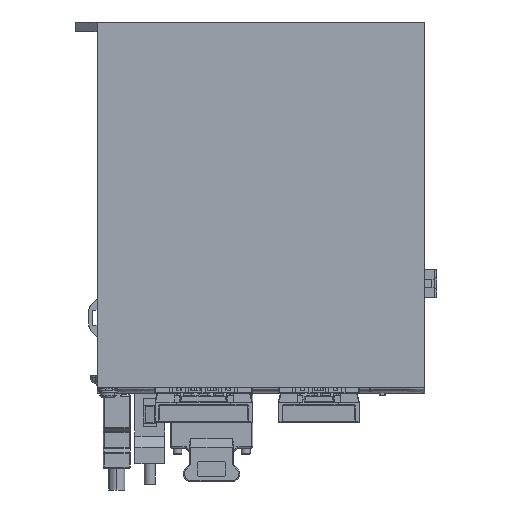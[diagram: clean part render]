
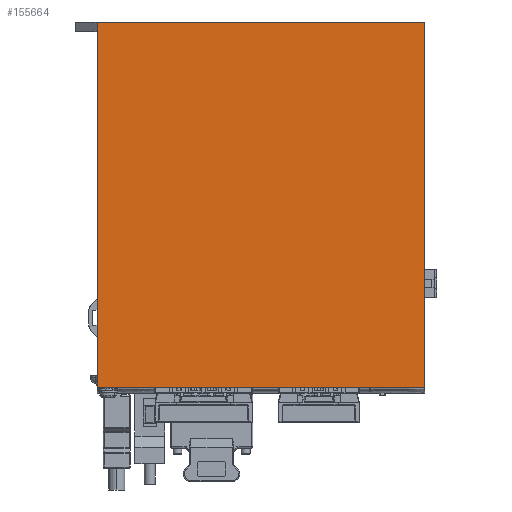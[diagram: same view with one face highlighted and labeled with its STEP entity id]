
A CAD part, front view. The second image highlights one B-rep face of the part: STEP entity #155664.
In plain terms, the highlighted planar face has unit normal (0, -1, 0).
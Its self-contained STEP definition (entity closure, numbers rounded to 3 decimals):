
#6488 = VECTOR ( 'NONE', #119408, 1000. ) ;
#11900 = VECTOR ( 'NONE', #50876, 1000. ) ;
#18419 = VECTOR ( 'NONE', #89807, 1000. ) ;
#21178 = VERTEX_POINT ( 'NONE', #98646 ) ;
#24363 = LINE ( 'NONE', #142629, #18419 ) ;
#28119 = LINE ( 'NONE', #127462, #11900 ) ;
#30814 = AXIS2_PLACEMENT_3D ( 'NONE', #32303, #34509, #137444 ) ;
#32303 = CARTESIAN_POINT ( 'NONE',  ( -150., 0., -79.5 ) ) ;
#34509 = DIRECTION ( 'NONE',  ( 0., -1., 0. ) ) ;
#35979 = ORIENTED_EDGE ( 'NONE', *, *, #90581, .T. ) ;
#38051 = LINE ( 'NONE', #56916, #136673 ) ;
#40650 = VERTEX_POINT ( 'NONE', #67287 ) ;
#42150 = CARTESIAN_POINT ( 'NONE',  ( 0., 0., 88. ) ) ;
#50405 = EDGE_CURVE ( 'NONE', #158090, #21178, #24363, .T. ) ;
#50876 = DIRECTION ( 'NONE',  ( 1., 0., 0. ) ) ;
#56916 = CARTESIAN_POINT ( 'NONE',  ( -150., 0., -79.5 ) ) ;
#57894 = CARTESIAN_POINT ( 'NONE',  ( -150., 0., -79.5 ) ) ;
#67287 = CARTESIAN_POINT ( 'NONE',  ( -150., 0., 88. ) ) ;
#70536 = PLANE ( 'NONE',  #30814 ) ;
#76796 = FACE_OUTER_BOUND ( 'NONE', #134455, .T. ) ;
#77723 = EDGE_CURVE ( 'NONE', #118016, #21178, #82971, .T. ) ;
#80003 = CARTESIAN_POINT ( 'NONE',  ( 0., 0., -79.5 ) ) ;
#82971 = LINE ( 'NONE', #80003, #6488 ) ;
#89807 = DIRECTION ( 'NONE',  ( 1., 0., 0. ) ) ;
#90209 = EDGE_CURVE ( 'NONE', #40650, #118016, #28119, .T. ) ;
#90581 = EDGE_CURVE ( 'NONE', #40650, #158090, #38051, .T. ) ;
#98646 = CARTESIAN_POINT ( 'NONE',  ( 0., 0., -79.5 ) ) ;
#108110 = ORIENTED_EDGE ( 'NONE', *, *, #90209, .F. ) ;
#117127 = ORIENTED_EDGE ( 'NONE', *, *, #50405, .T. ) ;
#118016 = VERTEX_POINT ( 'NONE', #42150 ) ;
#119408 = DIRECTION ( 'NONE',  ( 0., 0., -1. ) ) ;
#127462 = CARTESIAN_POINT ( 'NONE',  ( -150., 0., 88. ) ) ;
#134455 = EDGE_LOOP ( 'NONE', ( #159553, #108110, #35979, #117127 ) ) ;
#136673 = VECTOR ( 'NONE', #146963, 1000. ) ;
#137444 = DIRECTION ( 'NONE',  ( 0., 0., -1. ) ) ;
#142629 = CARTESIAN_POINT ( 'NONE',  ( -150., 0., -79.5 ) ) ;
#146963 = DIRECTION ( 'NONE',  ( 0., 0., -1. ) ) ;
#155664 = ADVANCED_FACE ( 'NONE', ( #76796 ), #70536, .T. ) ;
#158090 = VERTEX_POINT ( 'NONE', #57894 ) ;
#159553 = ORIENTED_EDGE ( 'NONE', *, *, #77723, .F. ) ;
